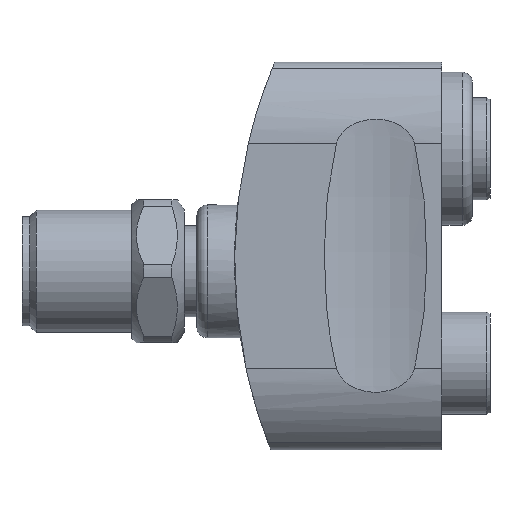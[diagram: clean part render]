
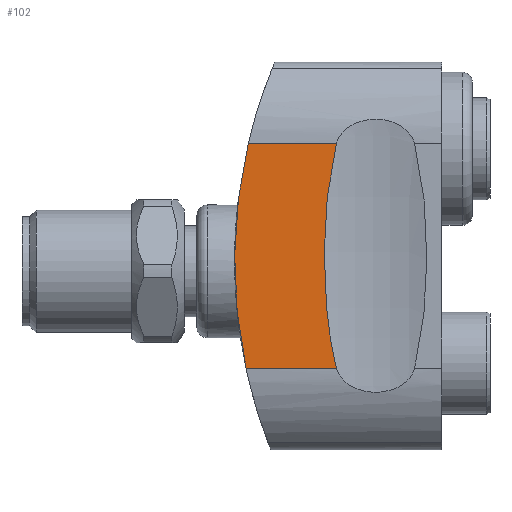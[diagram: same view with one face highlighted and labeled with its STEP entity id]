
A CAD part, top view. The second image highlights one B-rep face of the part: STEP entity #102.
In plain terms, the highlighted planar face has unit normal (0, 0, 1).
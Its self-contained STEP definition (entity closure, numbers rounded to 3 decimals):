
#102 = ADVANCED_FACE( '', ( #217 ), #218, .T. );
#217 = FACE_OUTER_BOUND( '', #384, .T. );
#218 = PLANE( '', #385 );
#384 = EDGE_LOOP( '', ( #644, #645, #646, #647 ) );
#385 = AXIS2_PLACEMENT_3D( '', #648, #649, #650 );
#644 = ORIENTED_EDGE( '', *, *, #998, .F. );
#645 = ORIENTED_EDGE( '', *, *, #999, .F. );
#646 = ORIENTED_EDGE( '', *, *, #1000, .T. );
#647 = ORIENTED_EDGE( '', *, *, #1001, .T. );
#648 = CARTESIAN_POINT( '', ( 53.69, 1.022, 8. ) );
#649 = DIRECTION( '', ( 0., 0., 1. ) );
#650 = DIRECTION( '', ( 1., 0., 0. ) );
#998 = EDGE_CURVE( '', #1188, #1189, #1190, .T. );
#999 = EDGE_CURVE( '', #1191, #1188, #1192, .F. );
#1000 = EDGE_CURVE( '', #1191, #1193, #1194, .T. );
#1001 = EDGE_CURVE( '', #1193, #1189, #1195, .F. );
#1188 = VERTEX_POINT( '', #1746 );
#1189 = VERTEX_POINT( '', #1747 );
#1190 = B_SPLINE_CURVE_WITH_KNOTS( '', 3, ( #1748, #1749, #1750, #1751, #1752, #1753, #1754, #1755, #1756, #1757, #1758, #1759, #1760, #1761, #1762, #1763, #1764, #1765, #1766, #1767 ), .UNSPECIFIED., .F., .F., ( 4, 2, 2, 2, 2, 2, 2, 2, 2, 4 ), ( 0.063, 0.066, 0.069, 0.074, 0.075, 0.076, 0.077, 0.08, 0.083, 0.086 ), .UNSPECIFIED. );
#1191 = VERTEX_POINT( '', #1768 );
#1192 = LINE( '', #1769, #1770 );
#1193 = VERTEX_POINT( '', #1771 );
#1194 = CIRCLE( '', #1772, 50. );
#1195 = LINE( '', #1773, #1774 );
#1746 = CARTESIAN_POINT( '', ( 13.672, 12.52, 8. ) );
#1747 = CARTESIAN_POINT( '', ( 13.667, -9.5, 8. ) );
#1748 = CARTESIAN_POINT( '', ( 13.672, 12.52, 8. ) );
#1749 = CARTESIAN_POINT( '', ( 13.445, 11.627, 8. ) );
#1750 = CARTESIAN_POINT( '', ( 13.264, 10.727, 8. ) );
#1751 = CARTESIAN_POINT( '', ( 12.964, 8.918, 8. ) );
#1752 = CARTESIAN_POINT( '', ( 12.845, 8.008, 8. ) );
#1753 = CARTESIAN_POINT( '', ( 12.564, 5.267, 8. ) );
#1754 = CARTESIAN_POINT( '', ( 12.476, 3.42, 8. ) );
#1755 = CARTESIAN_POINT( '', ( 12.474, 1.342, 8. ) );
#1756 = CARTESIAN_POINT( '', ( 12.475, 1.108, 8. ) );
#1757 = CARTESIAN_POINT( '', ( 12.48, 0.643, 8. ) );
#1758 = CARTESIAN_POINT( '', ( 12.484, 0.41, 8. ) );
#1759 = CARTESIAN_POINT( '', ( 12.5, -0.287, 8. ) );
#1760 = CARTESIAN_POINT( '', ( 12.516, -0.752, 8. ) );
#1761 = CARTESIAN_POINT( '', ( 12.582, -2.145, 8. ) );
#1762 = CARTESIAN_POINT( '', ( 12.649, -3.072, 8. ) );
#1763 = CARTESIAN_POINT( '', ( 12.835, -4.924, 8. ) );
#1764 = CARTESIAN_POINT( '', ( 12.954, -5.848, 8. ) );
#1765 = CARTESIAN_POINT( '', ( 13.256, -7.684, 8. ) );
#1766 = CARTESIAN_POINT( '', ( 13.439, -8.598, 8. ) );
#1767 = CARTESIAN_POINT( '', ( 13.667, -9.5, 8. ) );
#1768 = CARTESIAN_POINT( '', ( 5.03, 12.52, 8. ) );
#1769 = CARTESIAN_POINT( '', ( 25., 12.52, 8. ) );
#1770 = VECTOR( '', #2137, 1000. );
#1771 = CARTESIAN_POINT( '', ( 4.81, -9.5, 8. ) );
#1772 = AXIS2_PLACEMENT_3D( '', #2138, #2139, #2140 );
#1773 = CARTESIAN_POINT( '', ( 25., -9.5, 8. ) );
#1774 = VECTOR( '', #2141, 1000. );
#2137 = DIRECTION( '', ( -1., 0., 0. ) );
#2138 = CARTESIAN_POINT( '', ( 53.69, 1.022, 8. ) );
#2139 = DIRECTION( '', ( 0., 0., 1. ) );
#2140 = DIRECTION( '', ( 0., -1., 0. ) );
#2141 = DIRECTION( '', ( -1., 0., 0. ) );
